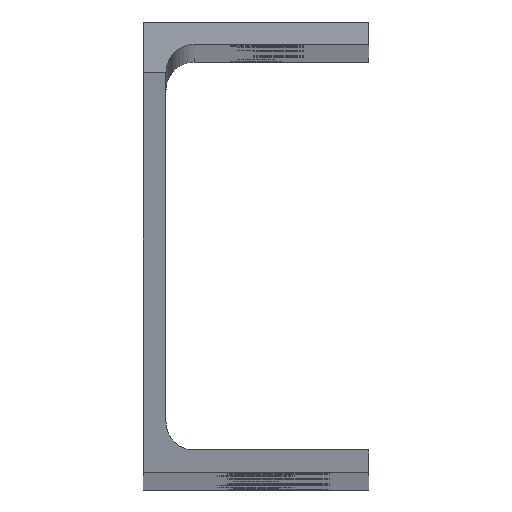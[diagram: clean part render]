
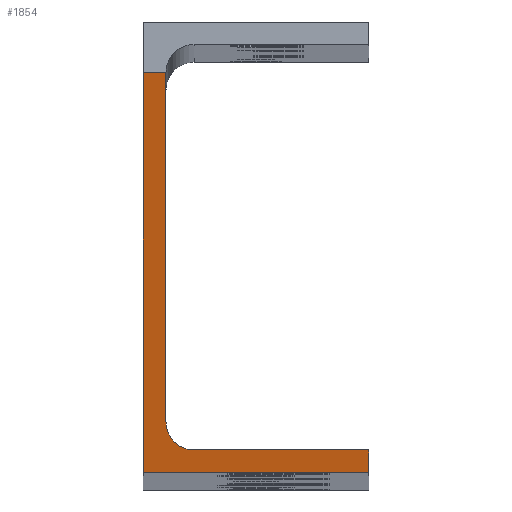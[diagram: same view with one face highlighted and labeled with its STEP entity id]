
A CAD part, top view. The second image highlights one B-rep face of the part: STEP entity #1854.
In plain terms, the highlighted planar face has unit normal (0, -0.207, 0.978).
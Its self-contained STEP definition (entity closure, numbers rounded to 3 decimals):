
#229 = EDGE_CURVE ( 'NONE', #3033, #473, #4363, .T. ) ;
#253 = DIRECTION ( 'NONE',  ( 0., 0.978, 0.207 ) ) ;
#473 = VERTEX_POINT ( 'NONE', #1443 ) ;
#481 = VERTEX_POINT ( 'NONE', #1949 ) ;
#514 = EDGE_CURVE ( 'NONE', #648, #2023, #1312, .T. ) ;
#563 = CARTESIAN_POINT ( 'NONE',  ( 40., 4., 1784.845 ) ) ;
#648 = VERTEX_POINT ( 'NONE', #5826 ) ;
#865 = FACE_OUTER_BOUND ( 'NONE', #3896, .T. ) ;
#1057 = LINE ( 'NONE', #2736, #1878 ) ;
#1115 = EDGE_CURVE ( 'NONE', #473, #481, #1057, .T. ) ;
#1312 =( BOUNDED_CURVE ( )  B_SPLINE_CURVE ( 3, ( #6156, #4656, #3563, #1537 ),
 .UNSPECIFIED., .F., .T. ) 
 B_SPLINE_CURVE_WITH_KNOTS ( ( 4, 4 ),
 ( 4.712, 6.283 ),
 .UNSPECIFIED. ) 
 CURVE ( )  GEOMETRIC_REPRESENTATION_ITEM ( )  RATIONAL_B_SPLINE_CURVE ( ( 1., 0.805, 0.805, 1. ) ) 
 REPRESENTATION_ITEM ( '' )  );
#1443 = CARTESIAN_POINT ( 'NONE',  ( 40., 0., 1784. ) ) ;
#1537 = CARTESIAN_POINT ( 'NONE',  ( 9., 4., 1784.845 ) ) ;
#1628 = CARTESIAN_POINT ( 'NONE',  ( 4., 71., 1799. ) ) ;
#1763 = ORIENTED_EDGE ( 'NONE', *, *, #229, .F. ) ;
#1854 = ADVANCED_FACE ( 'NONE', ( #865 ), #6492, .F. ) ;
#1878 = VECTOR ( 'NONE', #3694, 1000. ) ;
#1880 = EDGE_CURVE ( 'NONE', #2273, #648, #5584, .T. ) ;
#1949 = CARTESIAN_POINT ( 'NONE',  ( 0., 0., 1784. ) ) ;
#2023 = VERTEX_POINT ( 'NONE', #5082 ) ;
#2026 = ORIENTED_EDGE ( 'NONE', *, *, #514, .F. ) ;
#2080 = ORIENTED_EDGE ( 'NONE', *, *, #1880, .F. ) ;
#2273 = VERTEX_POINT ( 'NONE', #1628 ) ;
#2736 = CARTESIAN_POINT ( 'NONE',  ( 40., 0., 1784. ) ) ;
#2837 = LINE ( 'NONE', #4855, #3330 ) ;
#3033 = VERTEX_POINT ( 'NONE', #563 ) ;
#3330 = VECTOR ( 'NONE', #6351, 1000. ) ;
#3346 = EDGE_CURVE ( 'NONE', #2273, #5326, #5327, .T. ) ;
#3425 = VECTOR ( 'NONE', #4722, 1000. ) ;
#3431 = LINE ( 'NONE', #5633, #5961 ) ;
#3563 = CARTESIAN_POINT ( 'NONE',  ( 6.071, 4., 1784.845 ) ) ;
#3694 = DIRECTION ( 'NONE',  ( -1., 0., 0. ) ) ;
#3816 = VECTOR ( 'NONE', #4332, 1000. ) ;
#3896 = EDGE_LOOP ( 'NONE', ( #4919, #2026, #2080, #4090, #4581, #6756, #1763 ) ) ;
#3923 = EDGE_CURVE ( 'NONE', #5326, #481, #3431, .T. ) ;
#3969 = DIRECTION ( 'NONE',  ( 0., 0.207, -0.978 ) ) ;
#4090 = ORIENTED_EDGE ( 'NONE', *, *, #3346, .T. ) ;
#4332 = DIRECTION ( 'NONE',  ( 0., -0.978, -0.207 ) ) ;
#4363 = LINE ( 'NONE', #6338, #3816 ) ;
#4467 = DIRECTION ( 'NONE',  ( 0., -0.978, -0.207 ) ) ;
#4492 = VECTOR ( 'NONE', #4518, 1000. ) ;
#4495 = EDGE_CURVE ( 'NONE', #3033, #2023, #2837, .T. ) ;
#4518 = DIRECTION ( 'NONE',  ( 0., -0.978, -0.207 ) ) ;
#4581 = ORIENTED_EDGE ( 'NONE', *, *, #3923, .T. ) ;
#4656 = CARTESIAN_POINT ( 'NONE',  ( 4., 6.071, 1785.283 ) ) ;
#4722 = DIRECTION ( 'NONE',  ( -1., 0., 0. ) ) ;
#4855 = CARTESIAN_POINT ( 'NONE',  ( 0., 4., 1784.845 ) ) ;
#4919 = ORIENTED_EDGE ( 'NONE', *, *, #4495, .T. ) ;
#5082 = CARTESIAN_POINT ( 'NONE',  ( 9., 4., 1784.845 ) ) ;
#5326 = VERTEX_POINT ( 'NONE', #6216 ) ;
#5327 = LINE ( 'NONE', #6214, #3425 ) ;
#5482 = AXIS2_PLACEMENT_3D ( 'NONE', #5959, #3969, #253 ) ;
#5584 = LINE ( 'NONE', #5996, #4492 ) ;
#5633 = CARTESIAN_POINT ( 'NONE',  ( 0., 71., 1799. ) ) ;
#5826 = CARTESIAN_POINT ( 'NONE',  ( 4., 9., 1785.901 ) ) ;
#5959 = CARTESIAN_POINT ( 'NONE',  ( 40., 71., 1799. ) ) ;
#5961 = VECTOR ( 'NONE', #4467, 1000. ) ;
#5996 = CARTESIAN_POINT ( 'NONE',  ( 4., 3.034, 1784.641 ) ) ;
#6156 = CARTESIAN_POINT ( 'NONE',  ( 4., 9., 1785.901 ) ) ;
#6214 = CARTESIAN_POINT ( 'NONE',  ( 40., 71., 1799. ) ) ;
#6216 = CARTESIAN_POINT ( 'NONE',  ( 0., 71., 1799. ) ) ;
#6338 = CARTESIAN_POINT ( 'NONE',  ( 40., 71., 1799. ) ) ;
#6351 = DIRECTION ( 'NONE',  ( -1., 0., 0. ) ) ;
#6492 = PLANE ( 'NONE',  #5482 ) ;
#6756 = ORIENTED_EDGE ( 'NONE', *, *, #1115, .F. ) ;
